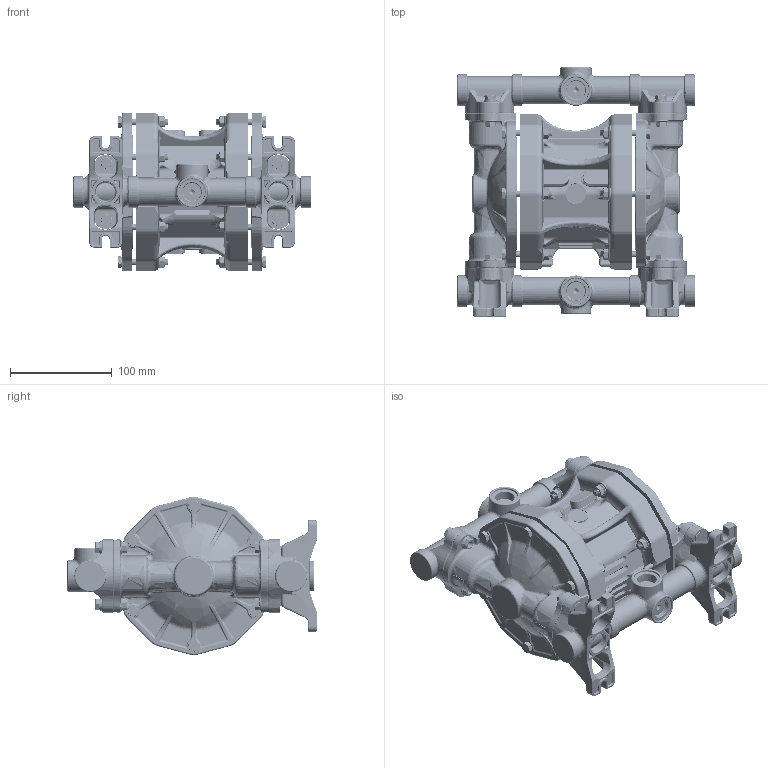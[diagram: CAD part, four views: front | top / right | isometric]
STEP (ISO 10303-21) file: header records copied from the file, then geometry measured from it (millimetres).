
FILE_DESCRIPTION (( 'STEP AP203' ), '1' );
FILE_NAME ('P 55 Alluminio AB.STEP', '2019-12-19T07:37:13', ( 'User' ), ( 'Hewlett-Packard Company' ), 'SwSTEP 2.0', 'SolidWorks 2018', '' );
FILE_SCHEMA (( 'CONFIG_CONTROL_DESIGN' ));
Products named in the file (1): P 55  Alluminio AB
Bounding box: 234 x 245.45 x 156.29 mm (x, y, z)
Volume: 1495550.2 mm3; surface area: 532414.8 mm2
Topology: 70 solids, 78 shells, 12660 faces, 29633 edges, 16736 vertices
Faces by surface type: bspline 3631, cylinder 2717, torus 2598, cone 2116, plane 1367, sphere 231
Entity records: 617884 total; most frequent: CARTESIAN_POINT 358364, ORIENTED_EDGE 58166, DIRECTION 49616, EDGE_CURVE 29083, AXIS2_PLACEMENT_3D 21454, VERTEX_POINT 16647, EDGE_LOOP 12954, FACE_OUTER_BOUND 12660
